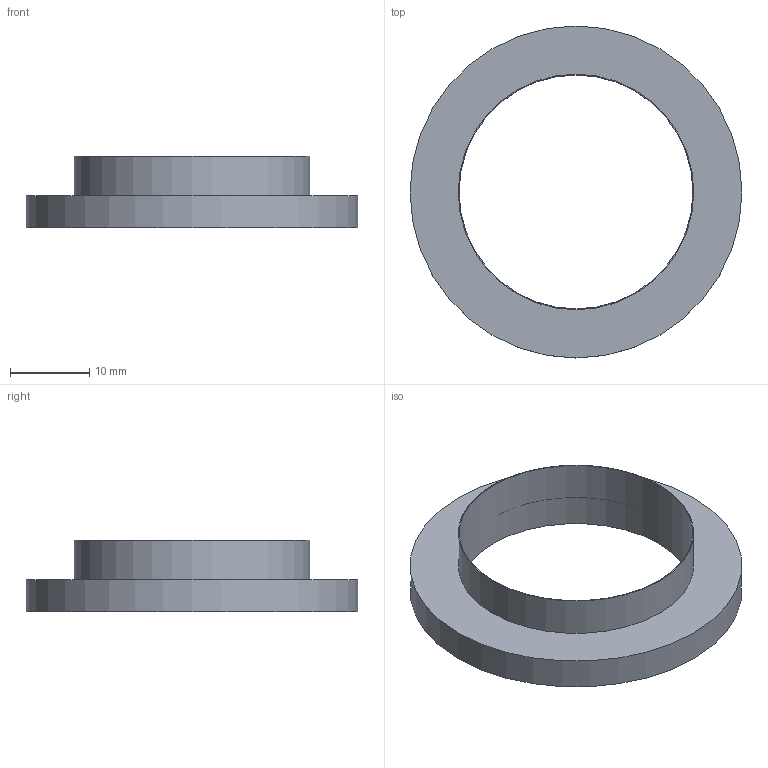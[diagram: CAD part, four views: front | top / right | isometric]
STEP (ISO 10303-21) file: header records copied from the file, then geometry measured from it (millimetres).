
FILE_DESCRIPTION(('Open CASCADE Model'),'2;1');
FILE_NAME('Open CASCADE Shape Model','2026-10-02T14:11:18',('Author'),( 'Open CASCADE'),'Open CASCADE STEP processor 8.0','build123d', 'Unknown');
FILE_SCHEMA(('AUTOMOTIVE_DESIGN { 1 0 10303 214 1 1 1 1 }'));
Length unit declared in the file: millimetre
Products named in the file (1): COMPOUND
Bounding box: 42 x 42 x 9 mm (x, y, z)
Volume: 2835.9 mm3; surface area: 3227.4 mm2
Topology: 1 solids, 1 shells, 6 faces, 9 edges, 6 vertices
Faces by surface type: cylinder 3, plane 3
Full cylindrical faces by diameter (mm): 29.6 x1, 29.8 x1, 42 x1
Entity records: 270 total; most frequent: DIRECTION 47, CARTESIAN_POINT 40, ORIENTED_EDGE 18, PCURVE 18, DEFINITIONAL_REPRESENTATION 18, LINE 15, VECTOR 15, AXIS2_PLACEMENT_3D 13
